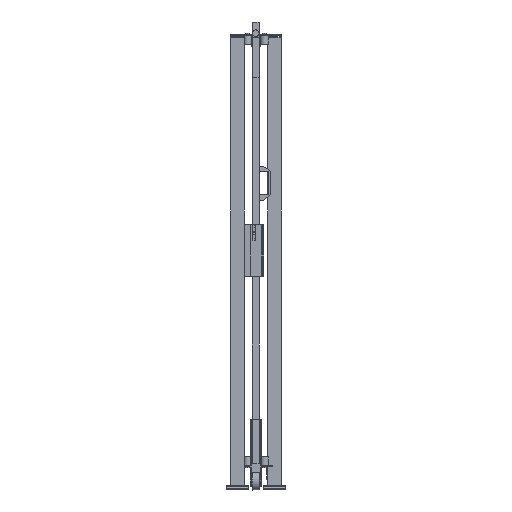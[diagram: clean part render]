
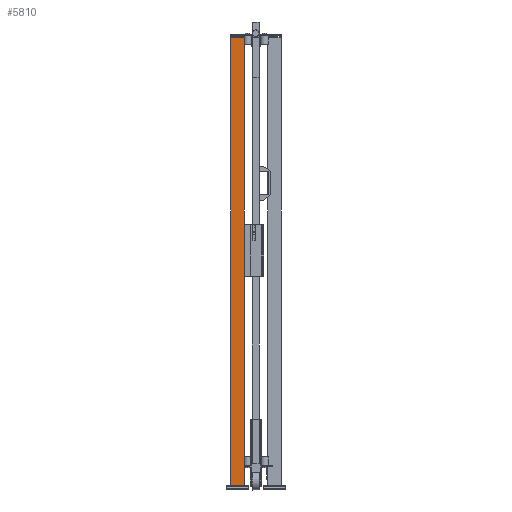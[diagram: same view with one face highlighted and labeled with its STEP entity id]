
A CAD part, left-side view. The second image highlights one B-rep face of the part: STEP entity #5810.
In plain terms, the highlighted planar face has unit normal (-1, 0, 0) as drawn and (0, 1, 0) by its records, which use the part's own axes.
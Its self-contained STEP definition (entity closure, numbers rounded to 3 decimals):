
#575=FACE_OUTER_BOUND('',#1018,.T.);
#1018=EDGE_LOOP('',(#3687,#3688,#3689,#3690));
#1524=VERTEX_POINT('',#12581);
#1525=VERTEX_POINT('',#12583);
#1527=VERTEX_POINT('',#12589);
#1530=VERTEX_POINT('',#12594);
#2362=EDGE_CURVE('',#1524,#1525,#6922,.T.);
#2368=EDGE_CURVE('',#1530,#1527,#6928,.T.);
#2371=EDGE_CURVE('',#1525,#1530,#6931,.T.);
#2372=EDGE_CURVE('',#1524,#1527,#6932,.T.);
#3687=ORIENTED_EDGE('',*,*,#2372,.T.);
#3688=ORIENTED_EDGE('',*,*,#2368,.F.);
#3689=ORIENTED_EDGE('',*,*,#2371,.F.);
#3690=ORIENTED_EDGE('',*,*,#2362,.F.);
#5411=PLANE('',#8858);
#5810=ADVANCED_FACE('',(#575),#5411,.F.);
#6922=LINE('',#12584,#7994);
#6928=LINE('',#12596,#8000);
#6931=LINE('',#12601,#8003);
#6932=LINE('',#12603,#8004);
#7994=VECTOR('',#9926,1.);
#8000=VECTOR('',#9934,1.);
#8003=VECTOR('',#9941,1.);
#8004=VECTOR('',#9944,1.);
#8858=AXIS2_PLACEMENT_3D('',#12602,#9942,#9943);
#9926=DIRECTION('',(-1.,0.,0.));
#9934=DIRECTION('',(1.,0.,0.));
#9941=DIRECTION('',(0.,0.,-1.));
#9942=DIRECTION('center_axis',(0.,-1.,0.));
#9943=DIRECTION('ref_axis',(0.,0.,-1.));
#9944=DIRECTION('',(0.,0.,-1.));
#12581=CARTESIAN_POINT('',(30.,30.,2020.));
#12583=CARTESIAN_POINT('',(-30.,30.,2020.));
#12584=CARTESIAN_POINT('',(0.,30.,2020.));
#12589=CARTESIAN_POINT('',(30.,30.,20.));
#12594=CARTESIAN_POINT('',(-30.,30.,20.));
#12596=CARTESIAN_POINT('',(0.,30.,20.));
#12601=CARTESIAN_POINT('',(-30.,30.,1020.));
#12602=CARTESIAN_POINT('Origin',(0.,30.,
1020.));
#12603=CARTESIAN_POINT('',(30.,30.,1020.));
